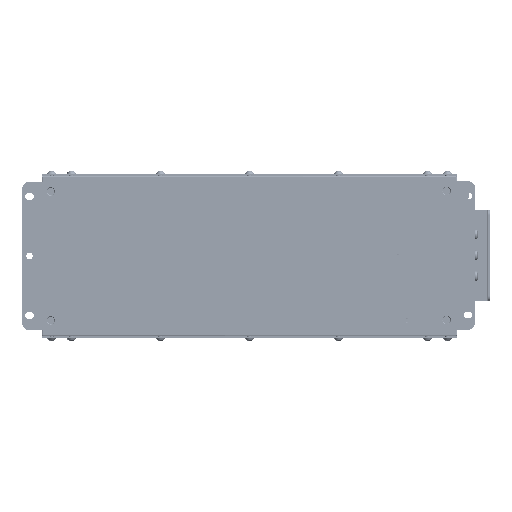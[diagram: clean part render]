
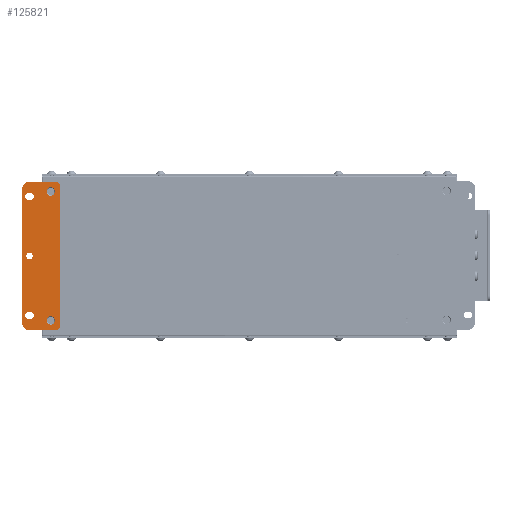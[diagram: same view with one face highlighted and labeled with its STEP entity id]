
A CAD part, front view. The second image highlights one B-rep face of the part: STEP entity #125821.
In plain terms, the highlighted planar face has unit normal (0, -1, 0).
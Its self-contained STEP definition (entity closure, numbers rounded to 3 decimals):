
#4626=FACE_BOUND('',#16728,.T.);
#4627=FACE_BOUND('',#16729,.T.);
#4628=FACE_BOUND('',#16730,.T.);
#4629=FACE_BOUND('',#16731,.T.);
#4630=FACE_BOUND('',#16732,.T.);
#5715=PLANE('',#133058);
#9853=FACE_OUTER_BOUND('',#16727,.T.);
#16727=EDGE_LOOP('',(#82561,#82562,#82563,#82564,#82565,#82566,#82567,#82568));
#16728=EDGE_LOOP('',(#82569));
#16729=EDGE_LOOP('',(#82570));
#16730=EDGE_LOOP('',(#82571,#82572,#82573,#82574));
#16731=EDGE_LOOP('',(#82575,#82576,#82577,#82578));
#16732=EDGE_LOOP('',(#82579));
#24688=LINE('',#174308,#36317);
#24689=LINE('',#174312,#36318);
#24690=LINE('',#174316,#36319);
#24691=LINE('',#174319,#36320);
#24692=LINE('',#174326,#36321);
#24693=LINE('',#174330,#36322);
#24694=LINE('',#174334,#36323);
#24695=LINE('',#174338,#36324);
#36317=VECTOR('',#143599,10.);
#36318=VECTOR('',#143602,10.);
#36319=VECTOR('',#143605,10.);
#36320=VECTOR('',#143608,10.);
#36321=VECTOR('',#143613,10.);
#36322=VECTOR('',#143616,10.);
#36323=VECTOR('',#143619,10.);
#36324=VECTOR('',#143622,10.);
#47846=CIRCLE('',#133057,4.25);
#47847=CIRCLE('',#133059,8.);
#47848=CIRCLE('',#133060,8.);
#47849=CIRCLE('',#133061,4.);
#47850=CIRCLE('',#133062,4.);
#47851=CIRCLE('',#133063,4.25);
#47852=CIRCLE('',#133064,3.3);
#47853=CIRCLE('',#133065,3.3);
#47854=CIRCLE('',#133066,3.3);
#47855=CIRCLE('',#133067,3.3);
#47856=CIRCLE('',#133068,3.3);
#51593=VERTEX_POINT('',#174300);
#51594=VERTEX_POINT('',#174304);
#51595=VERTEX_POINT('',#174305);
#51596=VERTEX_POINT('',#174307);
#51597=VERTEX_POINT('',#174309);
#51598=VERTEX_POINT('',#174311);
#51599=VERTEX_POINT('',#174313);
#51600=VERTEX_POINT('',#174315);
#51601=VERTEX_POINT('',#174317);
#51602=VERTEX_POINT('',#174320);
#51603=VERTEX_POINT('',#174322);
#51604=VERTEX_POINT('',#174324);
#51605=VERTEX_POINT('',#174325);
#51606=VERTEX_POINT('',#174327);
#51607=VERTEX_POINT('',#174329);
#51608=VERTEX_POINT('',#174332);
#51609=VERTEX_POINT('',#174333);
#51610=VERTEX_POINT('',#174335);
#51611=VERTEX_POINT('',#174337);
#63668=EDGE_CURVE('',#51593,#51593,#47846,.T.);
#63670=EDGE_CURVE('',#51594,#51595,#47847,.T.);
#63671=EDGE_CURVE('',#51595,#51596,#24688,.T.);
#63672=EDGE_CURVE('',#51596,#51597,#47848,.T.);
#63673=EDGE_CURVE('',#51597,#51598,#24689,.T.);
#63674=EDGE_CURVE('',#51598,#51599,#47849,.T.);
#63675=EDGE_CURVE('',#51599,#51600,#24690,.T.);
#63676=EDGE_CURVE('',#51600,#51601,#47850,.T.);
#63677=EDGE_CURVE('',#51601,#51594,#24691,.T.);
#63678=EDGE_CURVE('',#51602,#51602,#47851,.T.);
#63679=EDGE_CURVE('',#51603,#51603,#47852,.T.);
#63680=EDGE_CURVE('',#51604,#51605,#24692,.T.);
#63681=EDGE_CURVE('',#51605,#51606,#47853,.T.);
#63682=EDGE_CURVE('',#51606,#51607,#24693,.T.);
#63683=EDGE_CURVE('',#51607,#51604,#47854,.T.);
#63684=EDGE_CURVE('',#51608,#51609,#24694,.T.);
#63685=EDGE_CURVE('',#51609,#51610,#47855,.T.);
#63686=EDGE_CURVE('',#51610,#51611,#24695,.T.);
#63687=EDGE_CURVE('',#51611,#51608,#47856,.T.);
#82561=ORIENTED_EDGE('',*,*,#63670,.T.);
#82562=ORIENTED_EDGE('',*,*,#63671,.T.);
#82563=ORIENTED_EDGE('',*,*,#63672,.T.);
#82564=ORIENTED_EDGE('',*,*,#63673,.T.);
#82565=ORIENTED_EDGE('',*,*,#63674,.T.);
#82566=ORIENTED_EDGE('',*,*,#63675,.T.);
#82567=ORIENTED_EDGE('',*,*,#63676,.T.);
#82568=ORIENTED_EDGE('',*,*,#63677,.T.);
#82569=ORIENTED_EDGE('',*,*,#63678,.F.);
#82570=ORIENTED_EDGE('',*,*,#63679,.T.);
#82571=ORIENTED_EDGE('',*,*,#63680,.T.);
#82572=ORIENTED_EDGE('',*,*,#63681,.T.);
#82573=ORIENTED_EDGE('',*,*,#63682,.T.);
#82574=ORIENTED_EDGE('',*,*,#63683,.T.);
#82575=ORIENTED_EDGE('',*,*,#63684,.T.);
#82576=ORIENTED_EDGE('',*,*,#63685,.T.);
#82577=ORIENTED_EDGE('',*,*,#63686,.T.);
#82578=ORIENTED_EDGE('',*,*,#63687,.T.);
#82579=ORIENTED_EDGE('',*,*,#63668,.F.);
#125821=ADVANCED_FACE('',(#9853,#4626,#4627,#4628,#4629,#4630),#5715,.T.);
#133057=AXIS2_PLACEMENT_3D('',#174301,#143592,#143593);
#133058=AXIS2_PLACEMENT_3D('',#174303,#143595,#143596);
#133059=AXIS2_PLACEMENT_3D('',#174306,#143597,#143598);
#133060=AXIS2_PLACEMENT_3D('',#174310,#143600,#143601);
#133061=AXIS2_PLACEMENT_3D('',#174314,#143603,#143604);
#133062=AXIS2_PLACEMENT_3D('',#174318,#143606,#143607);
#133063=AXIS2_PLACEMENT_3D('',#174321,#143609,#143610);
#133064=AXIS2_PLACEMENT_3D('',#174323,#143611,#143612);
#133065=AXIS2_PLACEMENT_3D('',#174328,#143614,#143615);
#133066=AXIS2_PLACEMENT_3D('',#174331,#143617,#143618);
#133067=AXIS2_PLACEMENT_3D('',#174336,#143620,#143621);
#133068=AXIS2_PLACEMENT_3D('',#174339,#143623,#143624);
#143592=DIRECTION('center_axis',(0.,-1.,0.));
#143593=DIRECTION('ref_axis',(-1.,0.,0.));
#143595=DIRECTION('center_axis',(0.,-1.,0.));
#143596=DIRECTION('ref_axis',(0.,0.,
1.));
#143597=DIRECTION('center_axis',(0.,-1.,0.));
#143598=DIRECTION('ref_axis',(0.,0.,
1.));
#143599=DIRECTION('',(0.,0.,-1.));
#143600=DIRECTION('center_axis',(0.,-1.,0.));
#143601=DIRECTION('ref_axis',(-1.,0.,0.));
#143602=DIRECTION('',(1.,0.,0.));
#143603=DIRECTION('center_axis',(0.,-1.,0.));
#143604=DIRECTION('ref_axis',(0.,0.,
-1.));
#143605=DIRECTION('',(0.,0.,1.));
#143606=DIRECTION('center_axis',(0.,-1.,0.));
#143607=DIRECTION('ref_axis',(1.,0.,0.));
#143608=DIRECTION('',(-1.,0.,0.));
#143609=DIRECTION('center_axis',(0.,-1.,0.));
#143610=DIRECTION('ref_axis',(-1.,0.,0.));
#143611=DIRECTION('center_axis',(0.,1.,0.));
#143612=DIRECTION('ref_axis',(-1.,0.,0.));
#143613=DIRECTION('',(1.,0.,0.));
#143614=DIRECTION('center_axis',(0.,1.,0.));
#143615=DIRECTION('ref_axis',(0.,0.,
1.));
#143616=DIRECTION('',(-1.,0.,0.));
#143617=DIRECTION('center_axis',(0.,1.,0.));
#143618=DIRECTION('ref_axis',(0.,0.,
-1.));
#143619=DIRECTION('',(1.,0.,0.));
#143620=DIRECTION('center_axis',(0.,1.,0.));
#143621=DIRECTION('ref_axis',(0.,0.,
1.));
#143622=DIRECTION('',(-1.,0.,0.));
#143623=DIRECTION('center_axis',(0.,1.,0.));
#143624=DIRECTION('ref_axis',(0.,0.,
-1.));
#174300=CARTESIAN_POINT('',(-84.955,251.898,-479.255));
#174301=CARTESIAN_POINT('Origin',(-89.205,251.898,-479.255));
#174303=CARTESIAN_POINT('Origin',(-99.205,251.898,-544.255));
#174304=CARTESIAN_POINT('',(-110.205,251.898,-469.255));
#174305=CARTESIAN_POINT('',(-118.205,251.898,-477.255));
#174306=CARTESIAN_POINT('Origin',(-110.205,251.898,-477.255));
#174307=CARTESIAN_POINT('',(-118.205,251.898,-611.255));
#174308=CARTESIAN_POINT('',(-118.205,251.898,-477.255));
#174309=CARTESIAN_POINT('',(-110.205,251.898,-619.255));
#174310=CARTESIAN_POINT('Origin',(-110.205,251.898,-611.255));
#174311=CARTESIAN_POINT('',(-84.205,251.898,-619.255));
#174312=CARTESIAN_POINT('',(-110.205,251.898,-619.255));
#174313=CARTESIAN_POINT('',(-80.205,251.898,-615.255));
#174314=CARTESIAN_POINT('Origin',(-84.205,251.898,-615.255));
#174315=CARTESIAN_POINT('',(-80.205,251.898,-473.255));
#174316=CARTESIAN_POINT('',(-80.205,251.898,-615.255));
#174317=CARTESIAN_POINT('',(-84.205,251.898,-469.255));
#174318=CARTESIAN_POINT('Origin',(-84.205,251.898,-473.255));
#174319=CARTESIAN_POINT('',(-84.205,251.898,-469.255));
#174320=CARTESIAN_POINT('',(-84.955,251.898,-609.255));
#174321=CARTESIAN_POINT('Origin',(-89.205,251.898,-609.255));
#174322=CARTESIAN_POINT('',(-107.405,251.898,-544.255));
#174323=CARTESIAN_POINT('Origin',(-110.705,251.898,-544.255));
#174324=CARTESIAN_POINT('',(-111.705,251.898,-480.955));
#174325=CARTESIAN_POINT('',(-109.705,251.898,-480.955));
#174326=CARTESIAN_POINT('',(-111.705,251.898,-480.955));
#174327=CARTESIAN_POINT('',(-109.705,251.898,-487.555));
#174328=CARTESIAN_POINT('Origin',(-109.705,251.898,-484.255));
#174329=CARTESIAN_POINT('',(-111.705,251.898,-487.555));
#174330=CARTESIAN_POINT('',(-109.705,251.898,-487.555));
#174331=CARTESIAN_POINT('Origin',(-111.705,251.898,-484.255));
#174332=CARTESIAN_POINT('',(-111.705,251.898,-600.955));
#174333=CARTESIAN_POINT('',(-109.705,251.898,-600.955));
#174334=CARTESIAN_POINT('',(-111.705,251.898,-600.955));
#174335=CARTESIAN_POINT('',(-109.705,251.898,-607.555));
#174336=CARTESIAN_POINT('Origin',(-109.705,251.898,-604.255));
#174337=CARTESIAN_POINT('',(-111.705,251.898,-607.555));
#174338=CARTESIAN_POINT('',(-109.705,251.898,-607.555));
#174339=CARTESIAN_POINT('Origin',(-111.705,251.898,-604.255));
